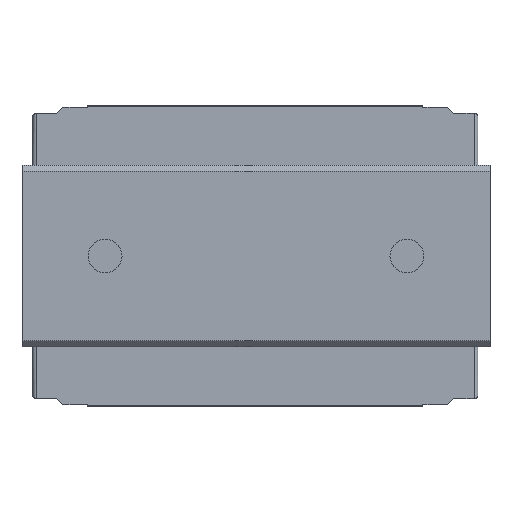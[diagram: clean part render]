
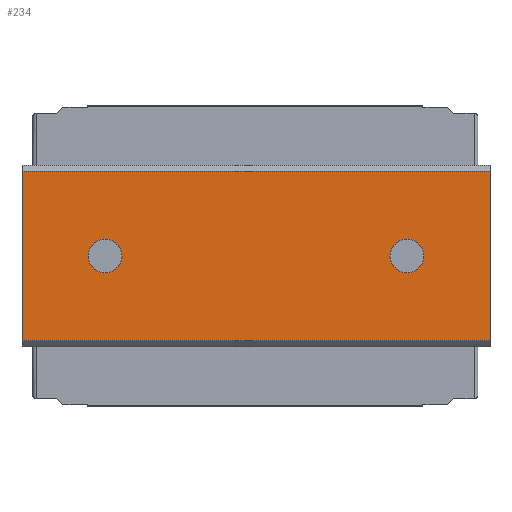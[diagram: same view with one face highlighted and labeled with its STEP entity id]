
A CAD part, front view. The second image highlights one B-rep face of the part: STEP entity #234.
In plain terms, the highlighted planar face has unit normal (0, -1, 0).
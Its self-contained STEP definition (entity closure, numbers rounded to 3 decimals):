
#234 = ADVANCED_FACE( '', ( #516, #517, #518 ), #519, .F. );
#516 = FACE_BOUND( '', #866, .T. );
#517 = FACE_BOUND( '', #867, .T. );
#518 = FACE_OUTER_BOUND( '', #868, .T. );
#519 = PLANE( '', #869 );
#866 = EDGE_LOOP( '', ( #1360 ) );
#867 = EDGE_LOOP( '', ( #1361 ) );
#868 = EDGE_LOOP( '', ( #1362, #1363, #1364, #1365 ) );
#869 = AXIS2_PLACEMENT_3D( '', #1366, #1367, #1368 );
#1360 = ORIENTED_EDGE( '', *, *, #2001, .T. );
#1361 = ORIENTED_EDGE( '', *, *, #2128, .T. );
#1362 = ORIENTED_EDGE( '', *, *, #2138, .T. );
#1363 = ORIENTED_EDGE( '', *, *, #2139, .F. );
#1364 = ORIENTED_EDGE( '', *, *, #2140, .F. );
#1365 = ORIENTED_EDGE( '', *, *, #2141, .T. );
#1366 = CARTESIAN_POINT( '', ( 31., 0., 11.2 ) );
#1367 = DIRECTION( '', ( 0., 1., 0. ) );
#1368 = DIRECTION( '', ( 0., 0., 1. ) );
#2001 = EDGE_CURVE( '', #2356, #2356, #2357, .T. );
#2128 = EDGE_CURVE( '', #2567, #2567, #2568, .T. );
#2138 = EDGE_CURVE( '', #2582, #2583, #2584, .T. );
#2139 = EDGE_CURVE( '', #2585, #2583, #2586, .T. );
#2140 = EDGE_CURVE( '', #2587, #2585, #2588, .T. );
#2141 = EDGE_CURVE( '', #2587, #2582, #2589, .T. );
#2356 = VERTEX_POINT( '', #2864 );
#2357 = CIRCLE( '', #2865, 2.25 );
#2567 = VERTEX_POINT( '', #3157 );
#2568 = CIRCLE( '', #3158, 2.25 );
#2582 = VERTEX_POINT( '', #3175 );
#2583 = VERTEX_POINT( '', #3176 );
#2584 = LINE( '', #3177, #3178 );
#2585 = VERTEX_POINT( '', #3179 );
#2586 = LINE( '', #3180, #3181 );
#2587 = VERTEX_POINT( '', #3182 );
#2588 = LINE( '', #3183, #3184 );
#2589 = LINE( '', #3185, #3186 );
#2864 = CARTESIAN_POINT( '', ( 20., 0., 2.25 ) );
#2865 = AXIS2_PLACEMENT_3D( '', #3539, #3540, #3541 );
#3157 = CARTESIAN_POINT( '', ( -20., 0., 2.25 ) );
#3158 = AXIS2_PLACEMENT_3D( '', #3672, #3673, #3674 );
#3175 = CARTESIAN_POINT( '', ( -31., 0., 11.2 ) );
#3176 = CARTESIAN_POINT( '', ( -31., 0., -11.2 ) );
#3177 = CARTESIAN_POINT( '', ( -31., 0., 11.2 ) );
#3178 = VECTOR( '', #3684, 1000. );
#3179 = CARTESIAN_POINT( '', ( 31., 0., -11.2 ) );
#3180 = CARTESIAN_POINT( '', ( 31., 0., -11.2 ) );
#3181 = VECTOR( '', #3685, 1000. );
#3182 = CARTESIAN_POINT( '', ( 31., 0., 11.2 ) );
#3183 = CARTESIAN_POINT( '', ( 31., 0., 11.2 ) );
#3184 = VECTOR( '', #3686, 1000. );
#3185 = CARTESIAN_POINT( '', ( 31., 0., 11.2 ) );
#3186 = VECTOR( '', #3687, 1000. );
#3539 = CARTESIAN_POINT( '', ( 20., 0., 0. ) );
#3540 = DIRECTION( '', ( 0., 1., 0. ) );
#3541 = DIRECTION( '', ( 0., 0., 1. ) );
#3672 = CARTESIAN_POINT( '', ( -20., 0., 0. ) );
#3673 = DIRECTION( '', ( 0., 1., 0. ) );
#3674 = DIRECTION( '', ( 0., 0., 1. ) );
#3684 = DIRECTION( '', ( 0., 0., -1. ) );
#3685 = DIRECTION( '', ( -1., 0., 0. ) );
#3686 = DIRECTION( '', ( 0., 0., -1. ) );
#3687 = DIRECTION( '', ( -1., 0., 0. ) );
